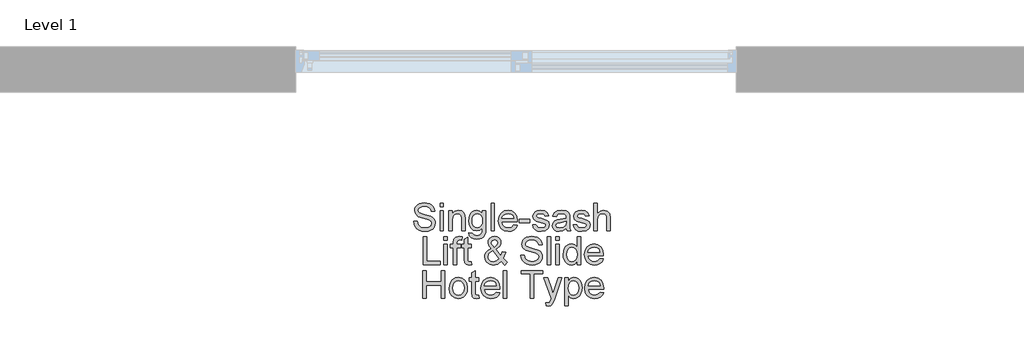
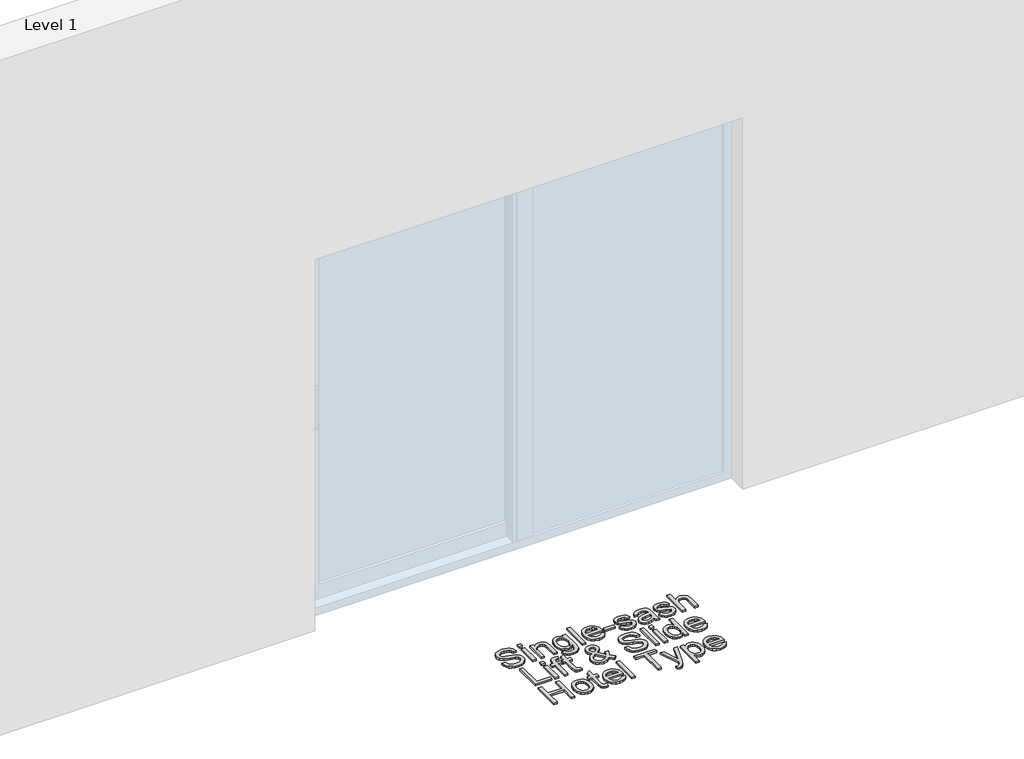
# One storey, part 6 of 17: 1 proxy.
"""IFC4 building model written with IfcOpenShell, lengths in millimetres."""

import ifcopenshell
import ifcopenshell.guid

model = None  # the IFC model being written
_history = None  # IfcOwnerHistory: only IFC2X3 demands one
_inside = {}  # id of a spatial element -> (the spatial element, [elements in it])
_under = {}  # id of a project, library or spatial element -> (it, [spatial elements below it])
_declared = {}  # id of a project -> (the project, [libraries it declares])
_typed = {}  # id of a type object -> (the type object, [elements of that type])
_made_of = {}  # id of a material, layer set ... -> (it, [elements and type objects made of it])


def new_model(schema):
    """Start an empty IFC model of exactly this schema.

    Asked for "IFC4X3", IfcOpenShell would pick the latest addendum, in which some entities
    have other attributes; the version numbers below select the first issue.
    IFC2X3 requires an IfcOwnerHistory on every rooted entity: one is made here for all.
    """
    global model, _history
    if schema == "IFC4X3":
        model = ifcopenshell.file(schema_version=(4, 3, 0, 0))
    else:
        model = ifcopenshell.file(schema=schema)
    _inside.clear()
    _under.clear()
    _declared.clear()
    _typed.clear()
    _made_of.clear()
    _history = None
    if model.schema == "IFC2X3":
        org = make("IfcOrganization", Name="unknown")
        user = make(
            "IfcPersonAndOrganization",
            ThePerson=make("IfcPerson", FamilyName="unknown"),
            TheOrganization=org,
        )
        app = make(
            "IfcApplication",
            ApplicationDeveloper=org,
            Version="unknown",
            ApplicationFullName="unknown",
            ApplicationIdentifier="unknown",
        )
        _history = make(
            "IfcOwnerHistory",
            OwningUser=user,
            OwningApplication=app,
            ChangeAction="ADDED",
            CreationDate=0,
        )
    return model


def make(cls, **values):
    """One entity of the class cls with the attributes given. An attribute that is None is left unset."""
    return model.create_entity(
        cls, **{name: value for name, value in values.items() if value is not None}
    )


def rooted(cls, **values):
    """An entity with a GlobalId (a new one), such as an element, a storey or a relation."""
    return make(cls, GlobalId=ifcopenshell.guid.new(), OwnerHistory=_history, **values)


def si_unit(unit_type, name, prefix=None):
    """IfcSIUnit, for example si_unit("LENGTHUNIT", "METRE", prefix="MILLI")."""
    return make("IfcSIUnit", UnitType=unit_type, Prefix=prefix, Name=name)


def assignment(units):
    """IfcUnitAssignment: the units of a project."""
    return None if units is None else make("IfcUnitAssignment", Units=units)


def point(xyz):
    """IfcCartesianPoint."""
    return None if xyz is None else make("IfcCartesianPoint", Coordinates=xyz)


def direction(xyz):
    """IfcDirection."""
    return None if xyz is None else make("IfcDirection", DirectionRatios=xyz)


def frame(location, z_axis=None, x_axis=None):
    """IfcAxis2Placement3D, a coordinate frame: its origin and axes. An axis left out is left unset."""
    return make(
        "IfcAxis2Placement3D",
        Location=point(location),
        Axis=direction(z_axis),
        RefDirection=direction(x_axis),
    )


def origin():
    """The frame at (0, 0, 0) with its axes left unset."""
    return frame((0.0, 0.0, 0.0))


def origin_with_axes():
    """The frame at (0, 0, 0) with the z axis (0, 0, 1) and the x axis (1, 0, 0) written out."""
    return frame((0.0, 0.0, 0.0), z_axis=(0.0, 0.0, 1.0), x_axis=(1.0, 0.0, 0.0))


def place(relative_to, where):
    """IfcLocalPlacement: puts the frame where relative to a parent placement (None: the world)."""
    return make(
        "IfcLocalPlacement", PlacementRelTo=relative_to, RelativePlacement=where
    )


def context(
    kind, dimensions, precision=None, world=None, true_north=None, identifier=None
):
    """IfcGeometricRepresentationContext, for example the 3D "Model" context."""
    return make(
        "IfcGeometricRepresentationContext",
        ContextIdentifier=identifier,
        ContextType=kind,
        CoordinateSpaceDimension=dimensions,
        Precision=precision,
        WorldCoordinateSystem=world,
        TrueNorth=true_north,
    )


def project(units=None, contexts=None):
    """IfcProject with its units and contexts."""
    return rooted(
        "IfcProject",
        Name="project",
        RepresentationContexts=contexts,
        UnitsInContext=assignment(units),
    )


def spatial(cls, under=None, at=None, **own):
    """A site, building, storey or space (cls), placed at a placement, below another one or the project."""
    s = rooted(cls, ObjectPlacement=at, **own)
    if under is not None:
        _under.setdefault(under.id(), (under, []))[1].append(s)
    return s


def polyline(points):
    """IfcPolyline through the points."""
    return make("IfcPolyline", Points=[point(p) for p in points])


def outline(outer, holes=None, kind="AREA"):
    """IfcArbitraryClosedProfileDef: a profile drawn as a closed curve; with holes, ...WithVoids."""
    if holes is None:
        return make("IfcArbitraryClosedProfileDef", ProfileType=kind, OuterCurve=outer)
    return make(
        "IfcArbitraryProfileDefWithVoids",
        ProfileType=kind,
        OuterCurve=outer,
        InnerCurves=holes,
    )


def extrude(swept, where, along, depth):
    """IfcExtrudedAreaSolid: the profile swept, set in the frame where, extruded along a direction by depth."""
    return make(
        "IfcExtrudedAreaSolid",
        SweptArea=swept,
        Position=where,
        ExtrudedDirection=direction(along),
        Depth=depth,
    )


def shape(context_of_items, identifier, shape_type, items):
    """IfcShapeRepresentation: the items that make up one representation, for example the "Body"."""
    return make(
        "IfcShapeRepresentation",
        ContextOfItems=context_of_items,
        RepresentationIdentifier=identifier,
        RepresentationType=shape_type,
        Items=items,
    )


def made_of(thing, what):
    """Note that an element or type object is made of a material, layer set ...; save() writes the relation."""
    if what is not None:
        _made_of.setdefault(what.id(), (what, []))[1].append(thing)
    return thing


def element(
    cls,
    number,
    at=None,
    inside=None,
    cuts=None,
    type_object=None,
    material=None,
    context=None,
    identifier="Body",
    shape_type=None,
    held_by="IfcProductDefinitionShape",
    body=None,
    shapes=None,
    **own,
):
    """One element of the class cls, such as IfcWall. Its Tag is "e" and its number.

    at: its placement. inside: the storey or other place that contains it. cuts: it is an
    opening in that element (IfcRelVoidsElement). A single representation is given by context,
    identifier, shape_type and body (its items); several are given by shapes. held_by: the class
    of the entity that holds the representations. save() writes the other relations.
    """
    e = rooted(cls, Tag="e%d" % number, ObjectPlacement=at, **own)
    if body is not None:
        shapes = [shape(context, identifier, shape_type, body)]
    if shapes is not None:
        e.Representation = make(held_by, Representations=shapes)
    if inside is not None:
        _inside.setdefault(inside.id(), (inside, []))[1].append(e)
    if cuts is not None:
        rooted(
            "IfcRelVoidsElement", RelatingBuildingElement=cuts, RelatedOpeningElement=e
        )
    if type_object is not None:
        _typed.setdefault(type_object.id(), (type_object, []))[1].append(e)
    return made_of(e, material)


def aggregate(whole, parts):
    """IfcRelAggregates: a whole, such as a stair, and the parts it consists of."""
    return rooted("IfcRelAggregates", RelatingObject=whole, RelatedObjects=parts)


def save(model, path):
    """Write the relations noted so far, then the file.

    IfcRelAggregates (storeys below a building ...), IfcRelContainedInSpatialStructure (elements
    in a storey), IfcRelDefinesByType, IfcRelAssociatesMaterial and IfcRelDeclares: one each for
    every whole, place, type object, material and project.
    """
    for whole, parts in _under.values():
        aggregate(whole, parts)
    for where, things in _inside.values():
        rooted(
            "IfcRelContainedInSpatialStructure",
            RelatedElements=things,
            RelatingStructure=where,
        )
    for kind, things in _typed.values():
        rooted("IfcRelDefinesByType", RelatedObjects=things, RelatingType=kind)
    for what, things in _made_of.values():
        rooted("IfcRelAssociatesMaterial", RelatedObjects=things, RelatingMaterial=what)
    for by, libraries in _declared.values():
        rooted("IfcRelDeclares", RelatingContext=by, RelatedDefinitions=libraries)
    model.write(path)


model = new_model("IFC4")

# Units and contexts
model_context = context("Model", 3, world=origin())
ifc_project = project(units=[si_unit("LENGTHUNIT", "METRE", prefix="MILLI")], contexts=[model_context])

# Site, building, storey
site = spatial("IfcSite", under=ifc_project)
building = spatial("IfcBuilding", under=site)
storey = spatial("IfcBuildingStorey", under=building, Name="Level 1", Elevation=0.0)

# Proxy
placement = place(None, origin())
element("IfcBuildingElementProxy", 1, Name="150mm Arial", ObjectType="150mm Arial", at=placement, inside=storey, context=model_context, shape_type="SweptSolid", body=[
    extrude(outline(polyline([(6621.3631783, -5845.8649684), (6640.1987364, -5845.8649684), (6646.2687894, -5864.7189207), (6661.0944338, -5876.6382973), (6683.6823883, -5881.18164), (6703.364075, -5877.7419433), (6716.074398, -5868.287376), (6720.2498586, -5855.6506295), (6717.1228616, -5843.8967997), (6704.3205682, -5835.3435434), (6676.8949655, -5828.1514504), (6647.3724354, -5818.86243), (6631.3511745, -5804.846126), (6626.0720678, -5786.1209324), (6627.7045442, -5775.0890711), (6632.6019732, -5764.8021708), (6640.6355963, -5756.0833675), (6651.6766547, -5749.7557972), (6679.5988981, -5744.6238433), (6709.3973397, -5749.9949205), (6720.8200757, -5756.6259934), (6729.2629675, -5765.7770581), (6734.6064535, -5776.8778973), (6736.730972, -5789.358294), (6717.8954138, -5789.358294), (6714.4373231, -5778.119499), (6707.226836, -5770.007701), (6695.9604499, -5765.0964764), (6680.3346621, -5763.4594015), (6664.3409924, -5765.0780823), (6653.3689119, -5769.9341246), (6647.0229475, -5777.0802324), (6644.907626, -5785.5691094), (6646.4067451, -5792.8071877), (6650.9041025, -5798.6289202), (6681.6590373, -5809.1503453), (6714.9891461, -5818.6049126), (6725.7267018, -5825.4383206), (6733.2176989, -5833.8720154), (6737.6184873, -5843.8140263), (6739.0854168, -5855.1723829), (6737.3977581, -5866.7836584), (6732.3347821, -5877.7051551), (6724.1034225, -5887.1045401), (6712.9106128, -5894.1494803), (6699.4507303, -5898.5502687), (6684.4181523, -5900.0171981), (6665.9642717, -5898.4353055), (6650.7753438, -5893.6896278), (6638.6766247, -5885.7617708), (6629.4933704, -5874.6333404), (6623.5980614, -5861.0768889), (6621.3631783, -5845.8649684)])), origin_with_axes(), (0.0, 0.0, 1.0), 10.0),
    extrude(outline(polyline([(6764.9843092, -5897.6627533), (6764.9843092, -5787.0038492), (6783.8198674, -5787.0038492), (6783.8198674, -5897.6627533), (6764.9843092, -5897.6627533)])), origin_with_axes(), (0.0, 0.0, 1.0), 10.0),
    extrude(outline(polyline([(6764.9843092, -5765.8138463), (6764.9843092, -5746.9782881), (6783.8198674, -5746.9782881), (6783.8198674, -5765.8138463), (6764.9843092, -5765.8138463)])), origin_with_axes(), (0.0, 0.0, 1.0), 10.0),
    extrude(outline(polyline([(6812.0732046, -5897.6627533), (6812.0732046, -5787.0038492), (6830.9087627, -5787.0038492), (6830.9087627, -5802.454893), (6845.3113429, -5789.1007766), (6864.9746355, -5784.6494044), (6882.76173, -5788.2362539), (6894.9018358, -5797.654033), (6900.5488244, -5811.5047901), (6901.5421058, -5829.7149488), (6901.5421058, -5897.6627533), (6882.7065477, -5897.6627533), (6882.7065477, -5832.2533346), (6880.5360439, -5815.5882802), (6872.8657043, -5806.7775064), (6859.9346522, -5803.4849626), (6848.9027908, -5805.3335696), (6839.4988073, -5810.8793907), (6833.0562739, -5821.5939538), (6830.9087627, -5838.9487869), (6830.9087627, -5897.6627533), (6812.0732046, -5897.6627533)])), origin_with_axes(), (0.0, 0.0, 1.0), 10.0),
    extrude(outline(polyline([(6922.7321087, -5907.0805324), (6941.5676669, -5909.4349772), (6947.674508, -5919.3677911), (6965.9582432, -5923.5616458), (6985.2352597, -5918.8159681), (6994.4323096, -5905.4986398), (6995.7198966, -5883.5360847), (6982.4577507, -5894.1310862), (6966.289337, -5897.6627533), (6946.8697662, -5893.551672), (6932.3890111, -5881.2184282), (6923.3805008, -5863.1370281), (6920.377664, -5841.7814783), (6925.7671352, -5812.590042), (6932.36142, -5800.7396432), (6941.3653318, -5791.9334679), (6952.4707695, -5786.4704203), (6965.369632, -5784.6494044), (6982.1726421, -5788.7696828), (6995.7198966, -5801.1305178), (6995.7198966, -5787.0038492), (7014.5554547, -5787.0038492), (7014.5554547, -5882.5428033), (7013.2678678, -5904.6019275), (7009.4051068, -5919.1286678), (7002.7510412, -5928.7625775), (6993.0895403, -5936.14321), (6980.6321363, -5940.8337055), (6965.5903612, -5942.397204), (6948.0653826, -5940.1945105), (6934.2652093, -5933.5864302), (6925.4130488, -5922.5545688), (6922.7321087, -5907.0805324)]), holes=[polyline([(6939.2132221, -5840.4938913), (6941.2227775, -5857.7705495), (6947.2514437, -5869.6485394), (6956.3151364, -5876.5325312), (6967.4297712, -5878.8271952), (6978.4616325, -5876.5463268), (6987.5713104, -5869.7037217), (6993.68275, -5857.9774831), (6995.7198966, -5841.0457143), (6993.6229692, -5824.7163522), (6987.3321871, -5812.957924), (6978.089152, -5805.8532029), (6967.1354656, -5803.4849626), (6956.3795157, -5805.8164147), (6947.3618083, -5812.8107712), (6941.2503687, -5824.3944555), (6939.2132221, -5840.4938913)])]), origin_with_axes(), (0.0, 0.0, 1.0), 10.0),
    extrude(outline(polyline([(7042.808792, -5897.6627533), (7042.808792, -5746.9782881), (7061.6443501, -5746.9782881), (7061.6443501, -5897.6627533), (7042.808792, -5897.6627533)])), origin_with_axes(), (0.0, 0.0, 1.0), 10.0),
    extrude(outline(polyline([(7167.3736355, -5864.7005266), (7185.8413117, -5867.0549713), (7179.1872461, -5880.9701078), (7168.569252, -5891.3719712), (7154.2264527, -5897.8558914), (7136.3979715, -5900.0171981), (7114.2974607, -5896.2877944), (7097.2921155, -5885.0995832), (7086.4487936, -5867.1791315), (7082.834353, -5843.2530063), (7086.4855818, -5818.5221391), (7097.4392683, -5800.0268718), (7114.2146872, -5788.4937713), (7135.3311138, -5784.6494044), (7155.7899512, -5788.4845742), (7172.1377074, -5799.9900836), (7182.856869, -5818.4485627), (7186.4299229, -5843.1426417), (7186.3195583, -5848.2194132), (7101.6699112, -5848.2194132), (7104.9302654, -5862.3184907), (7112.504036, -5872.6835659), (7123.4347297, -5879.0571214), (7136.7658535, -5881.18164), (7155.2335297, -5877.2453026), (7167.3736355, -5864.7005266)]), holes=[polyline([(7101.6699112, -5829.383855), (7167.5943647, -5829.383855), (7165.0467819, -5819.4326471), (7160.0527838, -5812.3141305), (7149.0715063, -5805.6922545), (7135.2575374, -5803.4849626), (7122.56101, -5805.2461976), (7112.0625776, -5810.5299028), (7104.7647185, -5818.765861), (7101.6699112, -5829.383855)])]), origin_with_axes(), (0.0, 0.0, 1.0), 10.0),
    extrude(outline(polyline([(7195.847702, -5852.9283027), (7195.847702, -5834.0927446), (7254.7088212, -5834.0927446), (7254.7088212, -5852.9283027), (7195.847702, -5852.9283027)])), origin_with_axes(), (0.0, 0.0, 1.0), 10.0),
    extrude(outline(polyline([(7268.8354898, -5864.7005266), (7287.671048, -5862.3460818), (7290.6416951, -5870.4026975), (7296.3898512, -5876.3255976), (7316.3658436, -5881.18164), (7335.5692837, -5876.7302678), (7341.8232776, -5866.2824192), (7340.2505821, -5861.4815591), (7335.5324955, -5857.8211333), (7316.1451144, -5852.4500561), (7287.7814126, -5843.2346122), (7275.4021834, -5832.4740638), (7271.1899346, -5817.2805374), (7274.5744489, -5803.2458393), (7283.808287, -5792.5220791), (7295.782846, -5786.9486669), (7311.9880478, -5784.6494044), (7334.9070961, -5788.3466185), (7349.4752231, -5798.3530087), (7355.9499463, -5815.2571864), (7337.1143881, -5817.6116312), (7330.0326597, -5807.2189648), (7313.4595758, -5803.4849626), (7295.4333581, -5807.0534179), (7290.0254927, -5815.367551), (7292.2695729, -5820.8489927), (7299.296119, -5825.0060593), (7315.519715, -5829.015973), (7343.1660469, -5837.8819291), (7356.0051286, -5847.9251076), (7360.6588358, -5864.2958564), (7355.1957882, -5882.3220741), (7339.4320447, -5895.4002791), (7316.1083262, -5900.0171981), (7297.1164182, -5897.791512), (7283.256464, -5891.1144538), (7274.0042318, -5880.0595999), (7268.8354898, -5864.7005266)])), origin_with_axes(), (0.0, 0.0, 1.0), 10.0),
    extrude(outline(polyline([(7452.4821818, -5883.5360847), (7434.2168407, -5896.30159), (7414.0385133, -5900.0171981), (7398.2977624, -5897.782315), (7386.686487, -5891.0776656), (7379.5265836, -5880.8965314), (7377.1399492, -5868.2321937), (7380.7451927, -5853.3329729), (7390.2181541, -5842.5172423), (7403.4067236, -5836.3368247), (7419.703896, -5833.5041334), (7452.3718172, -5827.0294103), (7452.4821818, -5822.8355555), (7451.1853978, -5814.4294519), (7447.2950457, -5808.9296161), (7438.5946365, -5804.846126), (7426.4729247, -5803.4849626), (7407.4166374, -5807.1086002), (7398.3299521, -5819.966076), (7379.494394, -5817.6116312), (7387.6429801, -5799.2175314), (7404.0505171, -5788.438589), (7428.9009459, -5784.6494044), (7451.7280237, -5787.9971306), (7464.6222876, -5796.4032342), (7470.398035, -5809.1871335), (7471.31774, -5825.6682469), (7471.31774, -5849.10233), (7472.2742331, -5881.8254334), (7476.0266295, -5897.6627533), (7457.1910713, -5897.6627533), (7452.4821818, -5883.5360847)]), holes=[polyline([(7452.4821818, -5845.8649684), (7422.095129, -5851.6407157), (7405.8899271, -5854.6941363), (7398.5506813, -5859.6605432), (7395.9755073, -5866.9078185), (7401.5857078, -5877.0981498), (7418.048427, -5881.18164), (7437.1047144, -5876.6750855), (7449.391973, -5865.7673844), (7452.3718172, -5851.1992574), (7452.4821818, -5845.8649684)])]), origin_with_axes(), (0.0, 0.0, 1.0), 10.0),
    extrude(outline(polyline([(7490.1532981, -5864.7005266), (7508.9888563, -5862.3460818), (7511.9595034, -5870.4026975), (7517.7076595, -5876.3255976), (7537.6836519, -5881.18164), (7556.887092, -5876.7302678), (7563.1410859, -5866.2824192), (7561.5683904, -5861.4815591), (7556.8503038, -5857.8211333), (7537.4629227, -5852.4500561), (7509.0992209, -5843.2346122), (7496.7199917, -5832.4740638), (7492.5077429, -5817.2805374), (7495.8922572, -5803.2458393), (7505.1260953, -5792.5220791), (7517.1006543, -5786.9486669), (7533.3058561, -5784.6494044), (7556.2249044, -5788.3466185), (7570.7930314, -5798.3530087), (7577.2677546, -5815.2571864), (7558.4321964, -5817.6116312), (7551.350468, -5807.2189648), (7534.7773841, -5803.4849626), (7516.7511664, -5807.0534179), (7511.343301, -5815.367551), (7513.5873812, -5820.8489927), (7520.6139273, -5825.0060593), (7536.8375233, -5829.015973), (7564.4838552, -5837.8819291), (7577.3229369, -5847.9251076), (7581.9766441, -5864.2958564), (7576.5135965, -5882.3220741), (7560.749853, -5895.4002791), (7537.4261345, -5900.0171981), (7518.4342265, -5897.791512), (7504.5742723, -5891.1144538), (7495.3220401, -5880.0595999), (7490.1532981, -5864.7005266)])), origin_with_axes(), (0.0, 0.0, 1.0), 10.0),
    extrude(outline(polyline([(7603.166647, -5897.6627533), (7603.166647, -5746.9782881), (7622.0022052, -5746.9782881), (7622.0022052, -5802.3813166), (7636.6898938, -5789.0823825), (7654.7804909, -5784.6494044), (7675.9337057, -5789.4870527), (7688.7727873, -5802.8595632), (7692.6355482, -5827.6180215), (7692.6355482, -5897.6627533), (7673.7999901, -5897.6627533), (7673.7999901, -5829.567796), (7672.300871, -5817.7771781), (7667.8035136, -5809.7021683), (7660.5562383, -5805.039264), (7650.8073654, -5803.4849626), (7635.3747157, -5807.6788173), (7625.0740198, -5819.046371), (7622.0022052, -5838.8752105), (7622.0022052, -5897.6627533), (7603.166647, -5897.6627533)])), origin_with_axes(), (0.0, 0.0, 1.0), 10.0),
    extrude(outline(polyline([(6673.1609632, -6080.6249801), (6673.1609632, -5929.9405149), (6691.9965214, -5929.9405149), (6691.9965214, -6061.789422), (6767.338754, -6061.789422), (6767.338754, -6080.6249801), (6673.1609632, -6080.6249801)])), origin_with_axes(), (0.0, 0.0, 1.0), 10.0),
    extrude(outline(polyline([(6786.1743121, -5948.776073), (6786.1743121, -5929.9405149), (6805.0098703, -5929.9405149), (6805.0098703, -5948.776073), (6786.1743121, -5948.776073)])), origin_with_axes(), (0.0, 0.0, 1.0), 10.0),
    extrude(outline(polyline([(6786.1743121, -6080.6249801), (6786.1743121, -5969.966076), (6805.0098703, -5969.966076), (6805.0098703, -6080.6249801), (6786.1743121, -6080.6249801)])), origin_with_axes(), (0.0, 0.0, 1.0), 10.0),
    extrude(outline(polyline([(6837.9720971, -6080.6249801), (6837.9720971, -5988.8016341), (6821.4909837, -5988.8016341), (6821.4909837, -5969.966076), (6837.9720971, -5969.966076), (6837.9720971, -5958.8192515), (6839.9586598, -5943.1106903), (6849.5971681, -5931.8902895), (6868.5798791, -5927.5860701), (6885.7599682, -5929.6462093), (6883.0008533, -5947.3045451), (6872.1483344, -5946.4216283), (6860.2841401, -5949.5486252), (6856.8076552, -5961.2104845), (6856.8076552, -5969.966076), (6877.9976581, -5969.966076), (6877.9976581, -5988.8016341), (6856.8076552, -5988.8016341), (6856.8076552, -6080.6249801), (6837.9720971, -6080.6249801)])), origin_with_axes(), (0.0, 0.0, 1.0), 10.0),
    extrude(outline(polyline([(6934.5043326, -6064.9164189), (6936.8587774, -6081.1768031), (6922.7688969, -6082.9794249), (6906.9867593, -6079.8524279), (6899.1140847, -6071.6486594), (6896.8332163, -6050.2747155), (6896.8332163, -5988.8016341), (6882.7065477, -5988.8016341), (6882.7065477, -5969.966076), (6896.8332163, -5969.966076), (6896.8332163, -5943.0739021), (6915.6687744, -5932.0006541), (6915.6687744, -5969.966076), (6934.5043326, -5969.966076), (6934.5043326, -5988.8016341), (6915.6687744, -5988.8016341), (6915.6687744, -6049.7228925), (6916.6620558, -6059.4349772), (6919.8810233, -6062.8746738), (6926.3005641, -6064.1438667), (6934.5043326, -6064.9164189)])), origin_with_axes(), (0.0, 0.0, 1.0), 10.0),
    extrude(outline(polyline([(7098.6164906, -6062.0101512), (7078.6404983, -6077.7371064), (7055.2799916, -6082.9794249), (7034.4946589, -6079.0982698), (7018.4917921, -6067.4548047), (7010.2420383, -6054.054703), (7007.4921204, -6039.1646793), (7009.7040109, -6025.9669127), (7016.3396824, -6014.1119154), (7027.3715437, -6003.6088844), (7042.7720038, -5994.4670168), (7029.6202224, -5975.4107295), (7026.3276786, -5961.2840609), (7028.9212467, -5948.5645409), (7036.7019508, -5937.6292486), (7048.4097953, -5930.0968647), (7062.7847843, -5927.5860701), (7076.4607975, -5929.9865001), (7087.3960898, -5937.1877902), (7094.5697887, -5947.7552005), (7096.9610217, -5960.2539913), (7095.1905896, -5970.7478252), (7089.8792933, -5980.4507128), (7068.634108, -5997.4836492), (7095.8941639, -6031.4391574), (7104.024356, -6010.5802482), (7122.8599141, -6014.6637384), (7109.5425859, -6045.6761906), (7132.2776932, -6068.4848743), (7118.1510246, -6082.9794249), (7098.6164906, -6062.0101512)]), holes=[polyline([(7059.1059644, -5985.6010608), (7074.5937964, -5973.9208074), (7078.1254635, -5962.8291653), (7073.4717563, -5951.0017591), (7061.8282911, -5946.4216283), (7049.9273086, -5950.9649709), (7045.1632367, -5962.0566131), (7046.7819175, -5968.9544005), (7051.6747481, -5976.6247401), (7059.1059644, -5985.6010608)]), polyline([(7085.9981382, -6048.4353055), (7052.3737238, -6006.4599699), (7031.6803616, -6022.2421075), (7026.3276786, -6036.6630817), (7028.1578915, -6045.5474319), (7033.6485303, -6054.7628758), (7042.4960923, -6061.798619), (7054.3970748, -6064.1438667), (7071.7059227, -6059.766071), (7085.9981382, -6048.4353055)])]), origin_with_axes(), (0.0, 0.0, 1.0), 10.0),
    extrude(outline(polyline([(7205.265481, -6028.8271952), (7224.1010392, -6028.8271952), (7230.1710921, -6047.6811474), (7244.9967365, -6059.6005241), (7267.584691, -6064.1438667), (7287.2663778, -6060.7041701), (7299.9767007, -6051.2496028), (7304.1521613, -6038.6128563), (7301.0251644, -6026.8590265), (7288.222871, -6018.3057701), (7260.7972682, -6011.1136771), (7231.2747381, -6001.8246567), (7215.2534772, -5987.8083527), (7209.9743706, -5969.0831592), (7211.6068469, -5958.0512978), (7216.504276, -5947.7643976), (7224.5378991, -5939.0455943), (7235.5789574, -5932.7180239), (7263.5012009, -5927.5860701), (7293.2996425, -5932.9571472), (7304.7223784, -5939.5882202), (7313.1652702, -5948.7392848), (7318.5087562, -5959.840124), (7320.6332747, -5972.3205207), (7301.7977166, -5972.3205207), (7298.3396258, -5961.0817258), (7291.1291387, -5952.9699278), (7279.8627526, -5948.0587031), (7264.2369649, -5946.4216283), (7248.2432951, -5948.040309), (7237.2712146, -5952.8963514), (7230.9252502, -5960.0424591), (7228.8099287, -5968.5313362), (7230.3090479, -5975.7694144), (7234.8064053, -5981.591147), (7265.56134, -5992.1125721), (7298.8914488, -6001.5671393), (7309.6290045, -6008.4005474), (7317.1200017, -6016.8342421), (7321.52079, -6026.7762531), (7322.9877195, -6038.1346097), (7321.3000608, -6049.7458851), (7316.2370849, -6060.6673819), (7308.0057252, -6070.0667668), (7296.8129155, -6077.1117071), (7283.353033, -6081.5124954), (7268.320455, -6082.9794249), (7249.8665744, -6081.3975323), (7234.6776466, -6076.6518546), (7222.5789274, -6068.7239976), (7213.3956731, -6057.5955672), (7207.5003642, -6044.0391157), (7205.265481, -6028.8271952)])), origin_with_axes(), (0.0, 0.0, 1.0), 10.0),
    extrude(outline(polyline([(7348.886612, -6080.6249801), (7348.886612, -5929.9405149), (7367.7221701, -5929.9405149), (7367.7221701, -6080.6249801), (7348.886612, -6080.6249801)])), origin_with_axes(), (0.0, 0.0, 1.0), 10.0),
    extrude(outline(polyline([(7395.9755073, -5948.776073), (7395.9755073, -5929.9405149), (7414.8110655, -5929.9405149), (7414.8110655, -5948.776073), (7395.9755073, -5948.776073)])), origin_with_axes(), (0.0, 0.0, 1.0), 10.0),
    extrude(outline(polyline([(7395.9755073, -6080.6249801), (7395.9755073, -5969.966076), (7414.8110655, -5969.966076), (7414.8110655, -6080.6249801), (7395.9755073, -6080.6249801)])), origin_with_axes(), (0.0, 0.0, 1.0), 10.0),
    extrude(outline(polyline([(7511.343301, -6080.6249801), (7511.343301, -6062.8562797), (7498.8812984, -6077.9486386), (7481.655224, -6082.9794249), (7469.47833, -6081.158409), (7458.3315055, -6075.6953614), (7448.8953323, -6066.9719596), (7441.8503921, -6055.3698811), (7437.4633993, -6041.3581756), (7436.0010684, -6025.4058926), (7441.3905396, -5995.42351), (7448.1227802, -5983.5317245), (7457.5405592, -5974.7853301), (7468.9311055, -5969.4050559), (7481.5816476, -5967.6116312), (7498.9456778, -5972.743585), (7511.343301, -5986.0793073), (7511.343301, -5929.9405149), (7530.1788592, -5929.9405149), (7530.1788592, -6080.6249801), (7511.343301, -6080.6249801)]), holes=[polyline([(7454.8366266, -6025.3323162), (7456.9611451, -6042.3698511), (7463.3347007, -6054.4869644), (7472.5961299, -6061.7296411), (7483.3842694, -6064.1438667), (7494.1678104, -6061.8400057), (7503.1947148, -6054.9284227), (7509.3061545, -6043.2803591), (7511.343301, -6026.767056), (7509.2693663, -6008.7132471), (7503.047562, -5996.1960622), (7493.7907313, -5988.8844076), (7482.6117172, -5986.4471893), (7471.7132131, -5988.7878385), (7462.7828777, -5995.8097861), (7456.8231893, -6007.871717), (7454.8366266, -6025.3323162)])]), origin_with_axes(), (0.0, 0.0, 1.0), 10.0),
    extrude(outline(polyline([(7635.9081446, -6047.6627533), (7654.3758208, -6050.0171981), (7647.7217552, -6063.9323346), (7637.1037611, -6074.334198), (7622.7609618, -6080.8181182), (7604.9324806, -6082.9794249), (7582.8319697, -6079.2500212), (7565.8266245, -6068.06181), (7554.9833027, -6050.1413583), (7551.3688621, -6026.215233), (7555.0200909, -6001.4843659), (7565.9737773, -5982.9890986), (7582.7491963, -5971.455998), (7603.8656228, -5967.6116312), (7624.3244603, -5971.446801), (7640.6722164, -5982.9523104), (7651.3913781, -6001.4107895), (7654.9644319, -6026.1048684), (7654.8540673, -6031.18164), (7570.2044203, -6031.18164), (7573.4647744, -6045.2807174), (7581.038545, -6055.6457926), (7591.9692388, -6062.0193482), (7605.3003626, -6064.1438667), (7623.7680388, -6060.2075294), (7635.9081446, -6047.6627533)]), holes=[polyline([(7570.2044203, -6012.3460818), (7636.1288738, -6012.3460818), (7633.581291, -6002.3948738), (7628.5872929, -5995.2763572), (7617.6060153, -5988.6544813), (7603.7920464, -5986.4471893), (7591.0955191, -5988.2084244), (7580.5970866, -5993.4921296), (7573.2992275, -6001.7280877), (7570.2044203, -6012.3460818)])]), origin_with_axes(), (0.0, 0.0, 1.0), 10.0),
    extrude(outline(polyline([(6671.9837408, -6263.5872069), (6671.9837408, -6112.9027417), (6690.819299, -6112.9027417), (6690.819299, -6174.1183057), (6770.8704211, -6174.1183057), (6770.8704211, -6112.9027417), (6789.7059793, -6112.9027417), (6789.7059793, -6263.5872069), (6770.8704211, -6263.5872069), (6770.8704211, -6192.9538638), (6690.819299, -6192.9538638), (6690.819299, -6263.5872069), (6671.9837408, -6263.5872069)])), origin_with_axes(), (0.0, 0.0, 1.0), 10.0),
    extrude(outline(polyline([(6815.6048717, -6208.2577548), (6819.6791648, -6181.5771131), (6831.9020441, -6162.8243284), (6847.0036, -6153.6364756), (6865.0850001, -6150.573858), (6884.8724529, -6154.3032617), (6900.6775831, -6165.4914729), (6911.0380598, -6183.2555747), (6914.4915521, -6206.7126504), (6912.9648418, -6225.7413466), (6908.3847109, -6240.2267002), (6900.8845168, -6251.0746205), (6890.5976165, -6259.191017), (6878.3793357, -6264.253993), (6865.0850001, -6265.9416516), (6845.058424, -6262.2260435), (6829.2716879, -6251.079219), (6819.0215758, -6232.9426367), (6815.6048717, -6208.2577548)]), holes=[polyline([(6834.4404299, -6208.2209666), (6836.6201307, -6225.2676986), (6843.1592332, -6237.4124029), (6853.0000766, -6244.6826709), (6865.0850001, -6247.1060935), (6877.1147413, -6244.6688753), (6886.9371906, -6237.3572206), (6893.4762931, -6225.0515679), (6895.6559939, -6207.6323554), (6893.4624975, -6191.0822642), (6886.8820083, -6179.1031067), (6877.0457635, -6171.8328388), (6865.0850001, -6169.4094161), (6853.0000766, -6171.8236417), (6843.1592332, -6179.0663185), (6836.6201307, -6191.1834317), (6834.4404299, -6208.2209666)])]), origin_with_axes(), (0.0, 0.0, 1.0), 10.0),
    extrude(outline(polyline([(6975.707116, -6247.8786457), (6978.0615608, -6264.1390299), (6963.9716804, -6265.9416516), (6948.1895428, -6262.8146547), (6940.3168681, -6254.6108862), (6938.0359997, -6233.2369423), (6938.0359997, -6171.7638609), (6923.9093311, -6171.7638609), (6923.9093311, -6152.9283027), (6938.0359997, -6152.9283027), (6938.0359997, -6126.0361289), (6956.8715579, -6114.9628808), (6956.8715579, -6152.9283027), (6975.707116, -6152.9283027), (6975.707116, -6171.7638609), (6956.8715579, -6171.7638609), (6956.8715579, -6232.6851193), (6957.8648393, -6242.397204), (6961.0838067, -6245.8369006), (6967.5033476, -6247.1060935), (6975.707116, -6247.8786457)])), origin_with_axes(), (0.0, 0.0, 1.0), 10.0),
    extrude(outline(polyline([(7072.0186224, -6230.6249801), (7090.4862985, -6232.9794249), (7083.832233, -6246.8945613), (7073.2142389, -6257.2964248), (7058.8714396, -6263.7803449), (7041.0429584, -6265.9416516), (7018.9424475, -6262.2122479), (7001.9371023, -6251.0240367), (6991.0937805, -6233.1035851), (6987.4793399, -6209.1774598), (6991.1305687, -6184.4465927), (7002.0842551, -6165.9513254), (7018.8596741, -6154.4182248), (7039.9761006, -6150.573858), (7060.4349381, -6154.4090278), (7076.7826942, -6165.9145372), (7087.5018559, -6184.3730163), (7091.0749097, -6209.0670952), (7090.9645451, -6214.1438667), (7006.314898, -6214.1438667), (7009.5752522, -6228.2429442), (7017.1490228, -6238.6080194), (7028.0797166, -6244.981575), (7041.4108404, -6247.1060935), (7059.8785165, -6243.1697561), (7072.0186224, -6230.6249801)]), holes=[polyline([(7006.314898, -6195.3083086), (7072.2393516, -6195.3083086), (7069.6917688, -6185.3571006), (7064.6977707, -6178.238584), (7053.7164931, -6171.6167081), (7039.9025242, -6169.4094161), (7027.2059968, -6171.1706512), (7016.7075644, -6176.4543563), (7009.4097053, -6184.6903145), (7006.314898, -6195.3083086)])]), origin_with_axes(), (0.0, 0.0, 1.0), 10.0),
    extrude(outline(polyline([(7109.9104679, -6263.5872069), (7109.9104679, -6112.9027417), (7128.746026, -6112.9027417), (7128.746026, -6263.5872069), (7109.9104679, -6263.5872069)])), origin_with_axes(), (0.0, 0.0, 1.0), 10.0),
    extrude(outline(polyline([(7255.8860436, -6263.5872069), (7255.8860436, -6131.7382998), (7206.4427034, -6131.7382998), (7206.4427034, -6112.9027417), (7324.1649419, -6112.9027417), (7324.1649419, -6131.7382998), (7274.7216017, -6131.7382998), (7274.7216017, -6263.5872069), (7255.8860436, -6263.5872069)])), origin_with_axes(), (0.0, 0.0, 1.0), 10.0),
    extrude(outline(polyline([(7343.0005, -6305.9672127), (7340.6460553, -6287.8306304), (7350.2109871, -6289.4860993), (7359.1505196, -6287.4075661), (7364.6319613, -6281.6134246), (7369.7823093, -6267.7442734), (7371.2538373, -6263.1825367), (7331.2282762, -6152.9283027), (7351.0939039, -6152.9283027), (7372.320695, -6214.3645959), (7379.7151232, -6238.9391132), (7387.1095513, -6217.2340755), (7408.9249536, -6152.9283027), (7428.6434285, -6152.9283027), (7390.1261836, -6266.2359572), (7380.1197933, -6290.8104745), (7369.1936981, -6304.0910145), (7354.5152065, -6308.3216575), (7343.0005, -6305.9672127)])), origin_with_axes(), (0.0, 0.0, 1.0), 10.0),
    extrude(outline(polyline([(7444.2416251, -6305.9672127), (7444.2416251, -6152.9283027), (7463.0771833, -6152.9283027), (7463.0771833, -6171.3959789), (7476.1002059, -6155.7793882), (7493.6849653, -6150.573858), (7506.4228793, -6152.3948738), (7517.5605067, -6157.8579215), (7526.6287979, -6166.631907), (7533.1587033, -6178.3857368), (7538.4194159, -6207.4116262), (7536.9340923, -6223.5202591), (7532.4781216, -6237.9274377), (7525.1940581, -6249.9019967), (7515.2244561, -6258.7127704), (7503.6131806, -6264.1344313), (7491.4040969, -6265.9416516), (7475.014954, -6261.1040034), (7463.0771833, -6248.8719271), (7463.0771833, -6305.9672127), (7444.2416251, -6305.9672127)]), holes=[polyline([(7463.0771833, -6209.1406716), (7465.1143298, -6226.0264552), (7471.2257695, -6237.8354672), (7480.2434769, -6244.7884369), (7490.9994267, -6247.1060935), (7501.9301205, -6244.7056635), (7511.1777541, -6237.5043734), (7517.4823318, -6225.2631), (7519.5838577, -6207.74272), (7517.5329156, -6190.9489069), (7511.3800892, -6178.974348), (7502.3761774, -6171.8006491), (7491.7719789, -6169.4094161), (7481.1263936, -6171.9524004), (7471.7775924, -6179.5813533), (7465.2522856, -6192.0571514), (7463.0771833, -6209.1406716)])]), origin_with_axes(), (0.0, 0.0, 1.0), 10.0),
    extrude(outline(polyline([(7637.085367, -6230.6249801), (7655.5530431, -6232.9794249), (7648.8989775, -6246.8945613), (7638.2809835, -6257.2964248), (7623.9381842, -6263.7803449), (7606.109703, -6265.9416516), (7584.0091921, -6262.2122479), (7567.0038469, -6251.0240367), (7556.1605251, -6233.1035851), (7552.5460845, -6209.1774598), (7556.1973133, -6184.4465927), (7567.1509997, -6165.9513254), (7583.9264187, -6154.4182248), (7605.0428452, -6150.573858), (7625.5016827, -6154.4090278), (7641.8494388, -6165.9145372), (7652.5686004, -6184.3730163), (7656.1416543, -6209.0670952), (7656.0312897, -6214.1438667), (7571.3816426, -6214.1438667), (7574.6419968, -6228.2429442), (7582.2157674, -6238.6080194), (7593.1464612, -6244.981575), (7606.477585, -6247.1060935), (7624.9452611, -6243.1697561), (7637.085367, -6230.6249801)]), holes=[polyline([(7571.3816426, -6195.3083086), (7637.3060962, -6195.3083086), (7634.7585134, -6185.3571006), (7629.7645153, -6178.238584), (7618.7832377, -6171.6167081), (7604.9692688, -6169.4094161), (7592.2727414, -6171.1706512), (7581.774309, -6176.4543563), (7574.4764499, -6184.6903145), (7571.3816426, -6195.3083086)])]), origin_with_axes(), (0.0, 0.0, 1.0), 10.0),
])

save(model, "model.ifc")
